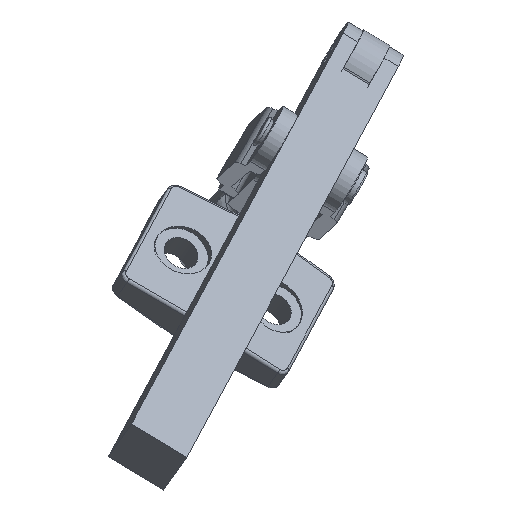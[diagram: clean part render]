
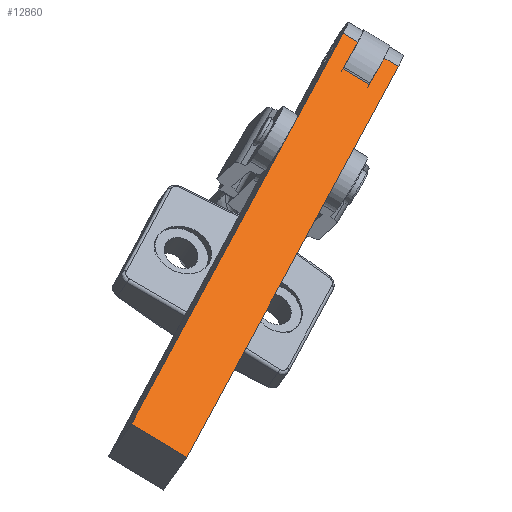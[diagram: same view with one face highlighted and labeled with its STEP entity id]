
A CAD part, isometric view. The second image highlights one B-rep face of the part: STEP entity #12860.
In plain terms, the highlighted planar face has unit normal (0.005, -0.499, 0.867) as drawn and (0, 1, 0) by its records, which use the part's own axes.
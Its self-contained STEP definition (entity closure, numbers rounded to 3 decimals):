
#404=PLANE('',#13720);
#1045=FACE_OUTER_BOUND('',#1750,.T.);
#1750=EDGE_LOOP('',(#8827,#8828,#8829,#8830,#8831,#8832,#8833,#8834));
#2484=LINE('',#19239,#3561);
#2485=LINE('',#19246,#3562);
#2488=LINE('',#19251,#3565);
#2489=LINE('',#19255,#3566);
#2490=LINE('',#19259,#3567);
#2491=LINE('',#19260,#3568);
#2492=LINE('',#19261,#3569);
#2493=LINE('',#19262,#3570);
#3561=VECTOR('',#15227,1000.);
#3562=VECTOR('',#15236,1000.);
#3565=VECTOR('',#15241,1000.);
#3566=VECTOR('',#15246,1000.);
#3567=VECTOR('',#15249,1000.);
#3568=VECTOR('',#15250,1000.);
#3569=VECTOR('',#15251,1000.);
#3570=VECTOR('',#15252,1000.);
#5382=VERTEX_POINT('',#19237);
#5383=VERTEX_POINT('',#19238);
#5384=VERTEX_POINT('',#19243);
#5385=VERTEX_POINT('',#19245);
#5386=VERTEX_POINT('',#19249);
#5387=VERTEX_POINT('',#19253);
#5388=VERTEX_POINT('',#19257);
#5389=VERTEX_POINT('',#19258);
#6750=EDGE_CURVE('',#5382,#5383,#2484,.T.);
#6754=EDGE_CURVE('',#5384,#5385,#2485,.T.);
#6757=EDGE_CURVE('',#5383,#5386,#2488,.T.);
#6759=EDGE_CURVE('',#5384,#5387,#2489,.T.);
#6760=EDGE_CURVE('',#5388,#5389,#2490,.T.);
#6761=EDGE_CURVE('',#5382,#5388,#2491,.T.);
#6762=EDGE_CURVE('',#5385,#5386,#2492,.T.);
#6763=EDGE_CURVE('',#5389,#5387,#2493,.T.);
#8827=ORIENTED_EDGE('',*,*,#6760,.F.);
#8828=ORIENTED_EDGE('',*,*,#6761,.F.);
#8829=ORIENTED_EDGE('',*,*,#6750,.T.);
#8830=ORIENTED_EDGE('',*,*,#6757,.T.);
#8831=ORIENTED_EDGE('',*,*,#6762,.F.);
#8832=ORIENTED_EDGE('',*,*,#6754,.F.);
#8833=ORIENTED_EDGE('',*,*,#6759,.T.);
#8834=ORIENTED_EDGE('',*,*,#6763,.F.);
#12860=ADVANCED_FACE('',(#1045),#404,.F.);
#13720=AXIS2_PLACEMENT_3D('',#19256,#15247,#15248);
#15227=DIRECTION('',(0.,0.,-1.));
#15236=DIRECTION('',(-1.,0.,0.));
#15241=DIRECTION('',(-1.,0.,0.));
#15246=DIRECTION('',(0.,0.,-1.));
#15247=DIRECTION('center_axis',(0.,-1.,0.));
#15248=DIRECTION('ref_axis',(0.,0.,-1.));
#15249=DIRECTION('',(0.,0.,1.));
#15250=DIRECTION('',(-1.,0.,0.));
#15251=DIRECTION('',(0.,0.,-1.));
#15252=DIRECTION('',(1.,0.,0.));
#19237=CARTESIAN_POINT('',(233.209,190.991,5.));
#19238=CARTESIAN_POINT('',(233.209,190.991,0.));
#19239=CARTESIAN_POINT('',(233.209,190.991,19.));
#19243=CARTESIAN_POINT('',(233.209,190.991,19.));
#19245=CARTESIAN_POINT('',(67.509,190.991,19.));
#19246=CARTESIAN_POINT('',(67.509,190.991,19.));
#19249=CARTESIAN_POINT('',(67.509,190.991,0.));
#19251=CARTESIAN_POINT('',(67.509,190.991,0.));
#19253=CARTESIAN_POINT('',(233.209,190.991,14.));
#19255=CARTESIAN_POINT('',(233.209,190.991,19.));
#19256=CARTESIAN_POINT('Origin',(67.509,190.991,19.));
#19257=CARTESIAN_POINT('',(221.809,190.991,5.));
#19258=CARTESIAN_POINT('',(221.809,190.991,14.));
#19259=CARTESIAN_POINT('',(221.809,190.991,0.));
#19260=CARTESIAN_POINT('',(0.,190.991,5.));
#19261=CARTESIAN_POINT('',(67.509,190.991,19.));
#19262=CARTESIAN_POINT('',(0.,190.991,14.));
